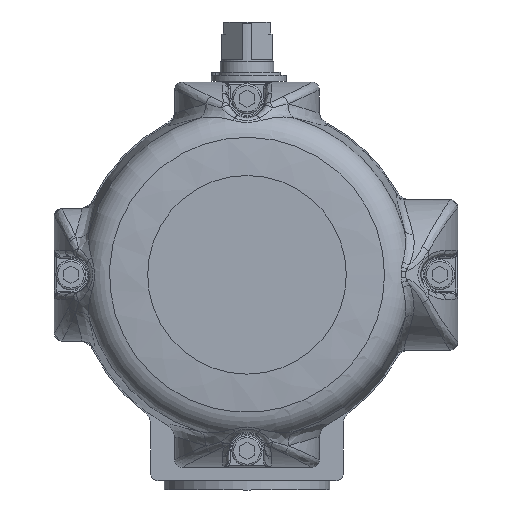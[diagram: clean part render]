
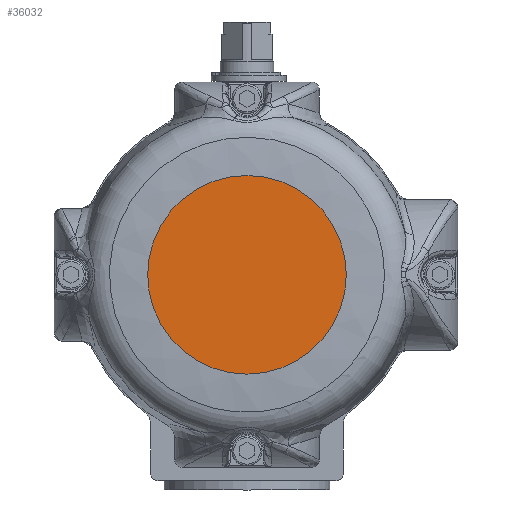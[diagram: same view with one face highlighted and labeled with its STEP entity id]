
A CAD part, left-side view. The second image highlights one B-rep face of the part: STEP entity #36032.
In plain terms, the highlighted planar face has unit normal (-1, 0, 0).
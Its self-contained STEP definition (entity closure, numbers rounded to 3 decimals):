
#36016=CARTESIAN_POINT('',(-104.75,-16.5,-64.));
#36017=DIRECTION('',(-1.0,0.0,0.0));
#36018=DIRECTION('',(0.0,0.0,1.0));
#36019=AXIS2_PLACEMENT_3D('',#36016,#36017,#36018);
#36020=PLANE('',#36019);
#36021=CARTESIAN_POINT('',(-104.75,-33.,-64.));
#36022=VERTEX_POINT('',#36021);
#36023=CARTESIAN_POINT('',(-104.75,0.,-64.));
#36024=DIRECTION('',(1.0,0.0,0.0));
#36025=DIRECTION('',(0.0,-1.0,0.0));
#36026=AXIS2_PLACEMENT_3D('',#36023,#36024,#36025);
#36027=CIRCLE('',#36026,33.0);
#36028=EDGE_CURVE('',#36022,#36022,#36027,.T.);
#36029=ORIENTED_EDGE('',*,*,#36028,.F.);
#36030=EDGE_LOOP('',(#36029));
#36031=FACE_OUTER_BOUND('',#36030,.T.);
#36032=ADVANCED_FACE('',(#36031),#36020,.T.);
